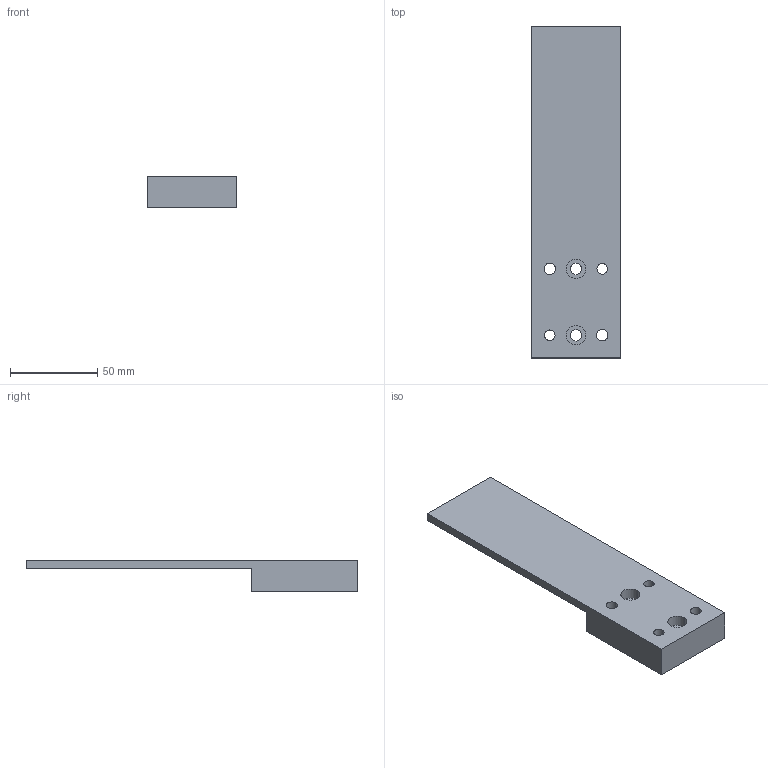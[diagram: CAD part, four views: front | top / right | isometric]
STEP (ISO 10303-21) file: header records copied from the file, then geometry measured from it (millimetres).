
FILE_DESCRIPTION (( 'STEP AP203' ), '1' );
FILE_NAME ('PPE63-P1.step', '2017-02-15T12:25:54', ( '' ), ( '' ), 'SwSTEP 2.0', 'SolidWorks 2012', '' );
FILE_SCHEMA (( 'CONFIG_CONTROL_DESIGN' ));
Length unit declared in the file: millimetre
Products named in the file (1): PPE63-P1
Bounding box: 51.2 x 190 x 18 mm (x, y, z)
Volume: 83691.2 mm3; surface area: 26689.5 mm2
Topology: 1 solids, 1 shells, 26 faces, 66 edges, 44 vertices
Faces by surface type: cylinder 16, plane 10
Entity records: 903 total; most frequent: DIRECTION 152, CARTESIAN_POINT 137, ORIENTED_EDGE 132, EDGE_CURVE 66, AXIS2_PLACEMENT_3D 59, VERTEX_POINT 44, EDGE_LOOP 40, LINE 34
